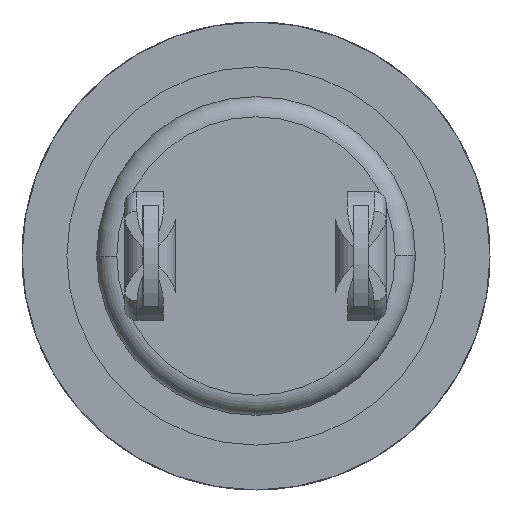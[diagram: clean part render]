
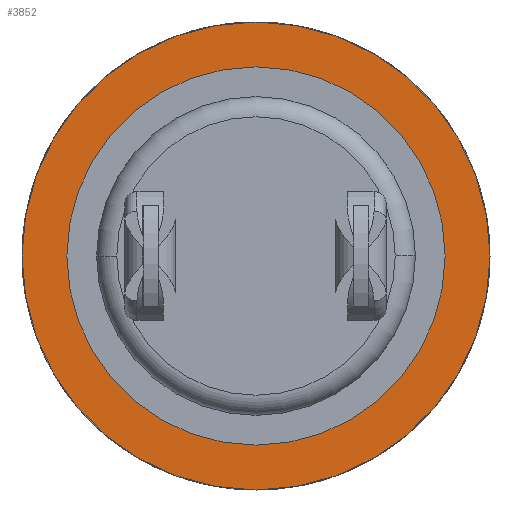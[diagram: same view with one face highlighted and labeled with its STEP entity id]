
A CAD part, front view. The second image highlights one B-rep face of the part: STEP entity #3852.
In plain terms, the highlighted planar face has unit normal (0, -1, 0).
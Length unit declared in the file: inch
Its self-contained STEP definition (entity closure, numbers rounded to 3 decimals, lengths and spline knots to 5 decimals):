
#2217=CARTESIAN_POINT('',(0.,-0.027,0.));
#2218=DIRECTION('',(0.,1.,0.));
#2219=DIRECTION('',(1.,0.,0.));
#2220=AXIS2_PLACEMENT_3D('',#2217,#2218,#2219);
#2818=CARTESIAN_POINT('',(0.,-0.027,0.));
#2819=DIRECTION('',(0.,-1.,0.));
#2820=DIRECTION('',(1.,0.,0.));
#2821=AXIS2_PLACEMENT_3D('',#2818,#2819,#2820);
#3734=CARTESIAN_POINT('',(0.232,-0.027,0.));
#3735=CARTESIAN_POINT('',(-0.232,-0.027,0.));
#3736=VERTEX_POINT('',#3734);
#3737=VERTEX_POINT('',#3735);
#3841=CARTESIAN_POINT('',(0.,-0.027,0.));
#3842=DIRECTION('',(0.,1.,0.));
#3843=DIRECTION('',(1.,0.,0.));
#3844=AXIS2_PLACEMENT_3D('',#3841,#3842,#3843);
#3845=PLANE('',#3844);
#3847=ORIENTED_EDGE('',*,*,#3846,.F.);
#3849=ORIENTED_EDGE('',*,*,#3848,.T.);
#3850=EDGE_LOOP('',(#3847,#3849));
#3851=FACE_OUTER_BOUND('',#3850,.F.);
#3852=ADVANCED_FACE('',(#3851),#3845,.F.);
#2221=CIRCLE('',#2220,0.232);
#2822=CIRCLE('',#2821,0.232);
#3846=EDGE_CURVE('',#3736,#3737,#2822,.T.);
#3848=EDGE_CURVE('',#3736,#3737,#2221,.T.);
